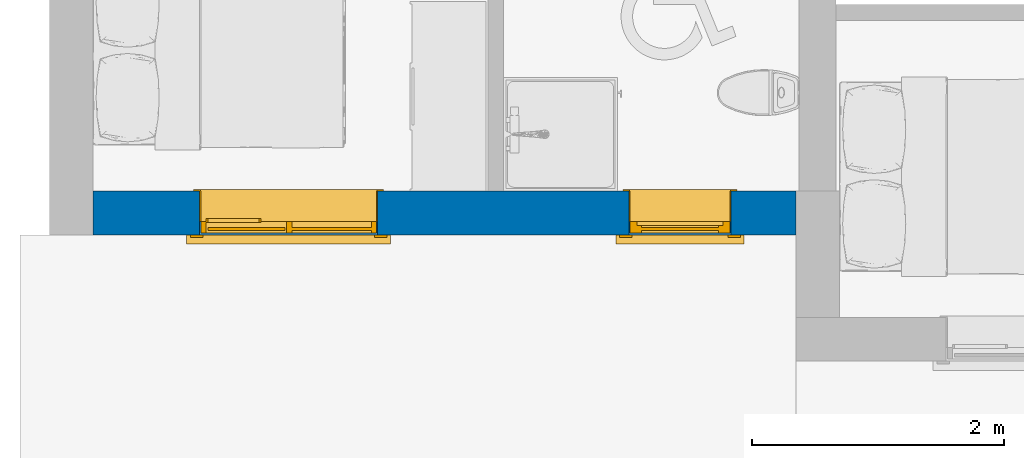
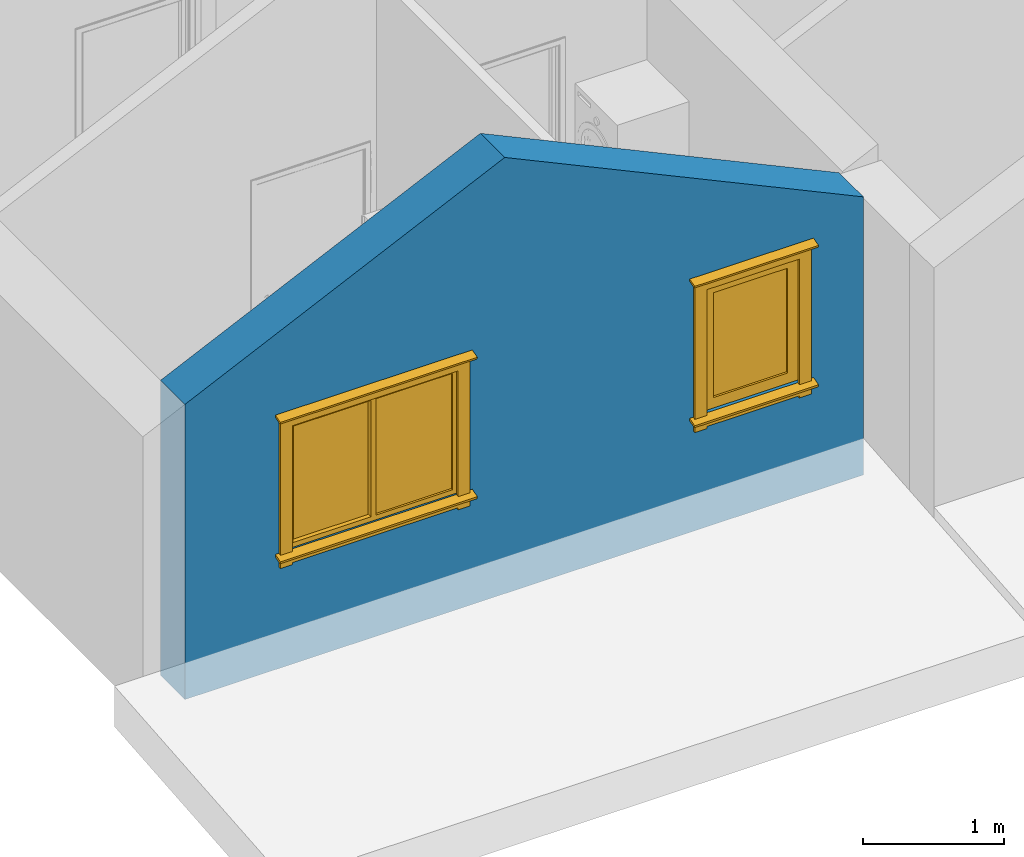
# One storey, part 2 of 44: 2 windows, 1 wall, 2 openings.
"""IFC2X3 building model written with IfcOpenShell, lengths in millimetres."""

from ifc_helpers import new_model, entity, si_unit, converted_unit, direction, frame, frame_2d, origin, place, context, subcontext, project, spatial, polyline, rectangle, extrude, clip, bounded_halfspace, faceted_brep, source, transform, mapped, material, material_list, layer, layer_set, layer_usage, type_object, type_shapes, element, fill, save


model = new_model("IFC2X3")

# Units and contexts
model_context = context("Model", 3, precision=0.01, world=origin(), true_north=direction((0.0, 1.0)))
body_context = subcontext(model_context, "Body", "Model", "MODEL_VIEW")
ifc_project = project(units=[si_unit("LENGTHUNIT", "METRE", prefix="MILLI"), si_unit("AREAUNIT", "SQUARE_METRE"), si_unit("VOLUMEUNIT", "CUBIC_METRE"), converted_unit("PLANEANGLEUNIT", "DEGREE", entity("IfcPlaneAngleMeasure", 0.017453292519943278), si_unit("PLANEANGLEUNIT", "RADIAN"), dimensions=[0, 0, 0, 0, 0, 0, 0])], contexts=[model_context])

# Site, building, storey
site_placement = place(None, origin())
site = spatial("IfcSite", under=ifc_project, at=site_placement, Name="Default", CompositionType="ELEMENT")
building_placement = place(site_placement, origin())
building = spatial("IfcBuilding", under=site, at=building_placement, CompositionType="ELEMENT")
storey_placement = place(building_placement, frame((0.0, 0.0, 2681.0)))
storey = spatial("IfcBuildingStorey", under=building, at=storey_placement, Name="Et. 2", CompositionType="ELEMENT", Elevation=2681.0)

# Wall, openings, windows
ifc_material_1 = material(Name="Vegg - Stående Kledning_smal - HVIT")
ifc_layer_1 = layer(ifc_material_1, 19.0)
ifc_material_2 = material(Name="Vegg - Utlekting")
ifc_layer_2 = layer(ifc_material_2, 36.0)
ifc_layer_3 = layer(ifc_material_2, 23.0)
ifc_material_3 = material(Name="Vegg - Gips - GU")
ifc_layer_4 = layer(ifc_material_3, 9.0)
ifc_material_4 = material(Name="Vegg - Stender - Isolert")
ifc_layer_5 = layer(ifc_material_4, 198.0)
ifc_material_5 = material(Name="Vegg - Påforing - Isolert")
ifc_layer_6 = layer(ifc_material_5, 48.0)
ifc_material_6 = material(Name="Vegg - Gips - Hvit")
ifc_layer_7 = layer(ifc_material_6, 13.000000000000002)
ifc_layer_set = layer_set([ifc_layer_1, ifc_layer_2, ifc_layer_3, ifc_layer_4, ifc_layer_5, ifc_layer_6, ifc_layer_7], Name="Basic Wall:23-Kv(sm)TIG-19_36_23_9_198_48_13")
ifc_layer_usage = layer_usage(ifc_layer_set, "AXIS2", "NEGATIVE", 173.0)
wall_type = type_object("IfcWallType", Name="Basic Wall:23-Kv(sm)TIG-19_36_23_9_198_48_13", PredefinedType="STANDARD", material=ifc_layer_set)
wall_placement = place(storey_placement, frame((16005.0095867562, 11581.180957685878, 0.0), z_axis=(0.0, 0.0, 1.0), x_axis=(-1.0, 0.0, 0.0)))
wall = element("IfcWallStandardCase", 1, at=wall_placement, inside=storey, type_object=wall_type, material=ifc_layer_usage, Name="Basic Wall:23-Kv(sm)TIG-19_36_23_9_198_48_13", context=body_context, shape_type="Clipping", body=[
    clip(clip(extrude(rectangle(XDim=5568.0, YDim=346.0000000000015, at=frame_2d((2784.0, 1.0089706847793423e-12), x_axis=(-1.0, 0.0))), origin(), (0.0, 0.0, 1.0), 3785.1668985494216), bounded_halfspace(frame((2943.5000000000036, -173.0, 3785.1668985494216), z_axis=(0.42261826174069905, 0.0, 0.9063077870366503), x_axis=(0.0, 1.0, 0.0)), False, frame((2943.5000000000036, -173.0, 3785.1668985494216)), polyline([(0.0, 0.0), (2624.499999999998, 0.0), (2624.499999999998, 346.0), (0.0, 346.0), (0.0, 0.0)]))), bounded_halfspace(frame((0.0, -173.0, 2412.5903067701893), z_axis=(-0.42261826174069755, 0.0, 0.9063077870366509), x_axis=(0.0, -1.0, 0.0)), False, frame((0.0, -173.0, 2412.5903067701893)), polyline([(0.0, 0.0), (2314.0, 0.0), (2440.0, 0.0), (2943.500000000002, 0.0), (2943.4999999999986, 346.0), (0.0, 346.0), (0.0, 0.0)]))),
])
opening_1_placement = place(wall_placement, frame((3313.0, -173.0, 990.0)))
opening_1 = element("IfcOpeningElement", 2, at=opening_1_placement, cuts=wall, Name="2 ruter vert-post åpning-fast m omramming:14x11M:1", ObjectType="Opening", context=body_context, shape_type="SweptSolid", body=[
    extrude(rectangle(XDim=1410.0000000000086, YDim=1109.9999999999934, at=frame_2d((554.9999999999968, 705.0000000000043), x_axis=(0.0, -1.0))), frame((0.0, 0.0, 0.0), z_axis=(0.0, 1.0, 0.0), x_axis=(0.0, 0.0, 1.0)), (0.0, 0.0, 1.0), 346.0),
])
opening_2_placement = place(wall_placement, frame((513.0, -173.0, 990.0)))
opening_2 = element("IfcOpeningElement", 3, at=opening_2_placement, cuts=wall, Name="Hel Rute Åpningsvindu m omramming:8x11M:1", ObjectType="Opening", context=body_context, shape_type="SweptSolid", body=[
    extrude(rectangle(XDim=809.9999999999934, YDim=1109.9999999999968, at=frame_2d((554.9999999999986, 404.9999999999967), x_axis=(0.0, -1.0))), frame((0.0, 0.0, 0.0), z_axis=(0.0, 1.0, 0.0), x_axis=(0.0, 0.0, 1.0)), (0.0, 0.0, 1.0), 346.0),
])
ifc_material_7 = material(Name="Omramming")
ifc_material_8 = material(Name="Glass - Klart")
ifc_material_9 = material(Name="Karm")
ifc_material_list_1 = material_list([ifc_material_7, ifc_material_8, ifc_material_9])
window_style_1 = type_object("IfcWindowStyle", Name="2 ruter vert-post åpning-fast m omramming:14x11M", ConstructionType="NOTDEFINED", OperationType="NOTDEFINED", ParameterTakesPrecedence=False, Sizeable=False, material=ifc_material_list_1)
shared_shape_1 = source(origin(), body_context, "Body", "Brep", [
    faceted_brep([(-73.0, 368.0, 1199.153701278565), (25.0, 368.0, 1199.153701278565), (25.0, 368.0, 4.105117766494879), (-73.0, 368.0, 4.105117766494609), (1385.0, 346.0, -110.0), (1483.0, 346.0, -110.0), (1483.0, 346.0, -12.776075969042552), (1513.0, 346.0, -12.776075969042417), (1513.0, 346.0, 10.0), (1483.0, 346.0, 10.0), (1483.0, 346.0, 1199.153701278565), (1385.0, 346.0, 1199.153701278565), (1385.0, 346.0, 10.0), (25.0, 346.0, 10.0), (25.0, 346.0, 1199.153701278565), (-73.0, 346.0, 1199.153701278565), (-73.0, 346.0, 10.0), (-103.0, 346.0, 10.0), (-103.0, 346.0, -12.776075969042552), (-73.0, 346.0, -12.776075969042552), (-73.0, 346.0, -110.0), (25.0, 346.0, -110.0), (25.0, 346.0, -12.776075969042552), (1385.0, 346.0, -12.776075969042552), (1483.0, 368.0, 1199.153701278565), (1385.0, 368.0, 1199.153701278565), (1483.0, 368.0, 4.105117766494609), (1385.0, 368.0, -110.0), (1483.0, 368.0, -110.0), (1385.0, 368.0, 4.105117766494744), (-73.0, 368.0, -110.0), (25.0, 368.0, -110.0), (-103.0, 413.6148078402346, -30.89340912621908), (-103.0, 419.3088268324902, -9.643040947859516), (1513.0, 413.6148078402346, -30.89340912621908), (1513.0, 419.3088268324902, -9.643040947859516), (1483.0, 368.0, -18.670958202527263), (1385.0, 368.0, -18.670958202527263), (25.0, 368.0, -18.670958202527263), (-73.0, 368.0, -18.670958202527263)], [[[0, 1, 2, 3]], [[4, 5, 6, 7, 8, 9, 10, 11, 12, 13, 14, 15, 16, 17, 18, 19, 20, 21, 22, 23]], [[24, 25, 11, 10]], [[24, 10, 9, 26]], [[27, 28, 5, 4]], [[11, 25, 29, 12]], [[1, 0, 15, 14]], [[1, 14, 13, 2]], [[30, 31, 21, 20]], [[15, 0, 3, 16]], [[32, 18, 17, 33]], [[34, 35, 8, 7]], [[18, 32, 34, 7, 6, 36, 37, 23, 22, 38, 39, 19]], [[33, 17, 16, 3, 2, 13, 12, 29, 26, 9, 8, 35]], [[32, 33, 35, 34]], [[30, 20, 19, 39]], [[21, 31, 38, 22]], [[27, 4, 23, 37]], [[5, 28, 36, 6]], [[31, 30, 39, 38]], [[25, 24, 26, 29]], [[28, 27, 37, 36]]]),
    faceted_brep([(1513.0, 413.52687511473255, 1180.8011105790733), (1513.0, 418.4444369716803, 1199.153701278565), (1513.0, 346.0, 1218.5651296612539), (1513.0, 346.0, 1198.894882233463), (-103.0, 413.52687511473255, 1180.8011105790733), (-103.0, 346.0, 1198.894882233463), (-103.0, 346.0, 1218.5651296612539), (-103.0, 418.4444369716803, 1199.153701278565)], [[[0, 1, 2, 3]], [[4, 5, 6, 7]], [[1, 0, 4, 7]], [[2, 1, 7, 6]], [[3, 2, 6, 5]], [[0, 3, 5, 4]]]),
    faceted_brep([(25.0, 368.0, 1193.0), (1385.0, 368.0, 1193.0), (1385.0, 368.0, 1095.0), (25.0, 368.0, 1095.0), (25.0, 346.0, 1193.0), (25.0, 346.0, 1095.0), (1385.0, 346.0, 1095.0), (1385.0, 346.0, 1193.0)], [[[0, 1, 2, 3]], [[4, 5, 6, 7]], [[1, 0, 4, 7]], [[2, 1, 7, 6]], [[3, 2, 6, 5]], [[0, 3, 5, 4]]]),
    faceted_brep([(1385.0, 368.0, -20.0), (25.0, 368.0, -20.0), (25.0, 346.0, -20.0), (1385.0, 346.0, -20.0), (1385.0, 368.0, -92.0), (1385.0, 346.0, -92.0), (25.0, 368.0, -92.0), (25.0, 346.0, -92.0)], [[[0, 1, 2, 3]], [[4, 0, 3, 5]], [[6, 4, 5, 7]], [[1, 6, 7, 2]], [[2, 7, 5, 3]], [[1, 0, 4, 6]]]),
    faceted_brep([(1345.0, 288.49999999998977, 65.0), (1345.0, 288.4999999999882, 1045.0), (735.0, 288.4999999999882, 1045.0), (735.0, 288.49999999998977, 65.0), (1345.0, 313.49999999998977, 65.0), (735.0, 313.49999999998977, 65.0), (735.0, 313.4999999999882, 1045.0), (1345.0, 313.4999999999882, 1045.0)], [[[0, 1, 2, 3]], [[4, 5, 6, 7]], [[1, 0, 4, 7]], [[2, 1, 7, 6]], [[3, 2, 6, 5]], [[0, 3, 5, 4]]]),
    faceted_brep([(720.0, 331.0, 50.0), (720.0, 331.0, 1060.0), (720.0, 239.0, 1060.0), (720.0, 239.0, 50.0), (1400.0, 239.0, 10.0), (1400.0, 239.0, 1100.0), (10.0, 239.0, 1100.0), (10.0, 239.0, 10.0), (680.0, 239.0, 1060.0), (680.0, 239.0, 50.0), (50.0, 239.0, 50.0), (50.0, 239.0, 1060.0), (925.0, 239.0, 1060.0), (1360.0, 239.0, 1060.0), (1360.0, 239.0, 50.0), (925.0, 239.0, 50.0), (680.0, 331.0, 1060.0), (680.0, 331.0, 50.0), (1360.0, 331.0, 50.0), (1360.0, 331.0, 1060.0), (50.0, 331.0, 1060.0), (50.0, 331.0, 50.0), (1400.0, 331.0, 1100.0), (1400.0, 331.0, 10.0), (10.0, 331.0, 10.0), (10.0, 331.0, 1100.0), (1360.0, 248.0, 50.0), (1360.0, 248.0, 1060.0), (925.0, 248.0, 1060.0), (940.0, 216.0, 65.0), (940.0, 248.0, 65.0), (940.0, 248.0, 1045.0), (940.0, 216.0, 1045.0), (1345.0, 248.0, 1045.0), (1345.0, 216.0, 1045.0), (1345.0, 248.0, 65.0), (1345.0, 216.0, 65.0), (925.0, 248.0, 50.0), (925.0, 216.0, 50.0), (925.0, 216.0, 1060.0), (1360.0, 216.0, 1060.0), (1360.0, 216.0, 50.0)], [[[0, 1, 2, 3]], [[4, 5, 6, 7], [8, 9, 10, 11], [3, 2, 12, 13, 14, 15]], [[9, 8, 16, 17]], [[1, 0, 18, 19], [17, 16, 20, 21], [22, 23, 24, 25]], [[4, 23, 22, 5]], [[19, 18, 26, 27]], [[5, 22, 25, 6]], [[1, 19, 27, 28, 12, 2]], [[6, 25, 24, 7]], [[20, 11, 10, 21]], [[23, 4, 7, 24]], [[21, 10, 9, 17]], [[29, 30, 31, 32]], [[32, 31, 33, 34]], [[34, 33, 35, 36]], [[30, 29, 36, 35]], [[31, 30, 35, 33], [37, 28, 27, 26]], [[38, 39, 12, 28, 37, 15]], [[39, 40, 13, 12]], [[40, 41, 14, 13]], [[29, 32, 34, 36], [39, 38, 41, 40]], [[41, 38, 15, 14]], [[18, 0, 3, 15, 37, 26]], [[11, 20, 16, 8]]], outer=[[True], [True, False, False], [True], [False, False, True], [True], [True], [True], [True], [True], [True], [True], [True], [True], [True], [True], [True], [False, True], [True], [True], [True], [False, True], [True], [True], [True]]),
    faceted_brep([(680.0, 288.49999999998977, 50.0), (680.0, 288.4999999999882, 1060.0), (50.0, 288.4999999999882, 1060.0), (50.0, 288.49999999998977, 50.0), (680.0, 313.49999999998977, 50.0), (50.0, 313.49999999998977, 50.0), (50.0, 313.4999999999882, 1060.0), (680.0, 313.4999999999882, 1060.0)], [[[0, 1, 2, 3]], [[4, 5, 6, 7]], [[1, 0, 4, 7]], [[2, 1, 7, 6]], [[3, 2, 6, 5]], [[0, 3, 5, 4]]]),
    faceted_brep([(1410.0, 239.0, 1110.0), (1410.0, 239.0, 0.0), (0.0, 239.0, 0.0), (0.0, 239.0, 1110.0), (10.0, 239.0, 10.0), (1400.0, 239.0, 10.0), (1400.0, 239.0, 1100.0), (10.0, 239.0, 1100.0), (1410.0, 0.0, 1110.0), (0.0, 0.0, 1110.0), (0.0, 0.0, 0.0), (1410.0, 0.0, 0.0), (10.0, 0.0, 10.0), (10.0, 0.0, 1100.0), (1400.0, 0.0, 1100.0), (1400.0, 0.0, 10.0)], [[[0, 1, 2, 3], [4, 5, 6, 7]], [[8, 9, 10, 11], [12, 13, 14, 15]], [[1, 0, 8, 11]], [[2, 1, 11, 10]], [[3, 2, 10, 9]], [[0, 3, 9, 8]], [[5, 4, 12, 15]], [[6, 5, 15, 14]], [[7, 6, 14, 13]], [[4, 7, 13, 12]]]),
    faceted_brep([(1405.0, -12.0, 1105.0), (1405.0, 0.0, 1105.0), (1405.0, 0.0, 5.0), (1405.0, -12.0, 5.0), (1457.0, 0.0, 1157.0), (1457.0, -12.0, 1157.0), (1457.0, -12.0, -47.0), (1457.0, 0.0, -47.0), (5.0, 0.0, 5.0), (5.0, -12.0, 5.0), (-47.0, -12.0, -47.0), (-47.0, 0.0, -47.0), (5.0, 0.0, 1105.0), (5.0, -12.0, 1105.0), (-47.0, -12.0, 1157.0), (-47.0, 0.0, 1157.0)], [[[0, 1, 2, 3]], [[4, 5, 6, 7]], [[3, 2, 8, 9]], [[7, 6, 10, 11]], [[9, 8, 12, 13]], [[11, 10, 14, 15]], [[7, 11, 15, 4], [1, 12, 8, 2]], [[13, 12, 1, 0]], [[3, 9, 13, 0], [5, 14, 10, 6]], [[15, 14, 5, 4]]], outer=[[True], [True], [True], [True], [True], [True], [True, False], [True], [False, True], [True]]),
])
type_shapes(window_style_1, [shared_shape_1])
window_1_placement = place(opening_1_placement, origin())
window_1 = element("IfcWindow", 4, at=window_1_placement, inside=storey, type_object=window_style_1, material=ifc_material_list_1, Name="2 ruter vert-post åpning-fast m omramming:14x11M", OverallHeight=1109.9999999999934, OverallWidth=1410.0000000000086, context=body_context, shape_type="MappedRepresentation", body=[
    mapped(shared_shape_1, transform((0.0, 0.0, 0.0), scale=1.0)),
])
fill(opening_1, window_1)
ifc_material_list_2 = material_list([ifc_material_7, ifc_material_9, ifc_material_8])
window_style_2 = type_object("IfcWindowStyle", Name="Hel Rute Åpningsvindu m omramming:8x11M", ConstructionType="NOTDEFINED", OperationType="NOTDEFINED", ParameterTakesPrecedence=False, Sizeable=False, material=ifc_material_list_2)
shared_shape_2 = source(origin(), body_context, "Body", "Brep", [
    faceted_brep([(-73.0, 368.0, 1189.1537012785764), (25.0, 368.0, 1189.1537012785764), (25.0, 368.0, -5.894882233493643), (-73.0, 368.0, -5.894882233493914), (785.0, 346.0, -120.0), (883.0, 346.0, -120.0), (883.0, 346.0, -22.776075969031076), (913.0, 346.0, -22.77607596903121), (913.0, 346.0, 0.0), (883.0, 346.0, 0.0), (883.0, 346.0, 1189.1537012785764), (785.0, 346.0, 1189.1537012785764), (785.0, 346.0, 0.0), (25.0, 346.0, 0.0), (25.0, 346.0, 1189.1537012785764), (-73.0, 346.0, 1189.1537012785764), (-73.0, 346.0, 0.0), (-103.0, 346.0, 0.0), (-103.0, 346.0, -22.776075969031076), (-73.0, 346.0, -22.776075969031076), (-73.0, 346.0, -120.0), (25.0, 346.0, -120.0), (25.0, 346.0, -22.776075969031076), (785.0, 346.0, -22.776075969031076), (883.0, 368.0, 1189.1537012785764), (785.0, 368.0, 1189.1537012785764), (883.0, 368.0, -5.894882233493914), (785.0, 368.0, -120.0), (883.0, 368.0, -120.0), (785.0, 368.0, -5.894882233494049), (-73.0, 368.0, -120.0), (25.0, 368.0, -120.0), (-103.0, 413.6148078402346, -40.89340912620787), (-103.0, 419.3088268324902, -19.64304094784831), (913.0, 413.6148078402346, -40.89340912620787), (913.0, 419.3088268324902, -19.64304094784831), (883.0, 368.0, -28.67095820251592), (785.0, 368.0, -28.670958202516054), (25.0, 368.0, -28.67095820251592), (-73.0, 368.0, -28.670958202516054)], [[[0, 1, 2, 3]], [[4, 5, 6, 7, 8, 9, 10, 11, 12, 13, 14, 15, 16, 17, 18, 19, 20, 21, 22, 23]], [[24, 25, 11, 10]], [[24, 10, 9, 26]], [[27, 28, 5, 4]], [[11, 25, 29, 12]], [[1, 0, 15, 14]], [[1, 14, 13, 2]], [[30, 31, 21, 20]], [[15, 0, 3, 16]], [[32, 18, 17, 33]], [[34, 35, 8, 7]], [[18, 32, 34, 7, 6, 36, 37, 23, 22, 38, 39, 19]], [[33, 17, 16, 3, 2, 13, 12, 29, 26, 9, 8, 35]], [[32, 33, 35, 34]], [[30, 20, 19, 39]], [[21, 31, 38, 22]], [[27, 4, 23, 37]], [[5, 28, 36, 6]], [[31, 30, 39, 38]], [[25, 24, 26, 29]], [[28, 27, 37, 36]]]),
    faceted_brep([(913.0, 413.52687511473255, 1170.8011105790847), (913.0, 418.4444369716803, 1189.1537012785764), (913.0, 346.0, 1208.5651296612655), (913.0, 346.0, 1188.8948822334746), (-103.0, 413.52687511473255, 1170.8011105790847), (-103.0, 346.0, 1188.8948822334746), (-103.0, 346.0, 1208.5651296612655), (-103.0, 418.4444369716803, 1189.1537012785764)], [[[0, 1, 2, 3]], [[4, 5, 6, 7]], [[1, 0, 4, 7]], [[2, 1, 7, 6]], [[3, 2, 6, 5]], [[0, 3, 5, 4]]]),
    faceted_brep([(25.0, 368.0, 1183.0), (785.0, 368.0, 1183.0), (785.0, 368.0, 1085.0), (25.0, 368.0, 1085.0), (25.0, 346.0, 1183.0), (25.0, 346.0, 1085.0), (785.0, 346.0, 1085.0), (785.0, 346.0, 1183.0)], [[[0, 1, 2, 3]], [[4, 5, 6, 7]], [[1, 0, 4, 7]], [[2, 1, 7, 6]], [[3, 2, 6, 5]], [[0, 3, 5, 4]]]),
    faceted_brep([(785.0, 368.0, -30.0), (25.0, 368.0, -30.0), (25.0, 346.0, -30.0), (785.0, 346.0, -30.0), (785.0, 368.0, -102.0), (785.0, 346.0, -102.0), (25.0, 368.0, -102.0), (25.0, 346.0, -102.0)], [[[0, 1, 2, 3]], [[4, 0, 3, 5]], [[6, 4, 5, 7]], [[1, 6, 7, 2]], [[2, 7, 5, 3]], [[1, 0, 4, 6]]]),
    faceted_brep([(100.0, 271.0, 100.0), (100.0, 331.0, 100.0), (100.0, 331.0, 1010.0), (100.0, 271.0, 1010.0), (50.0, 331.0, 50.0), (50.0, 271.0, 50.0), (50.0, 271.0, 1060.0), (50.0, 331.0, 1060.0), (710.0, 331.0, 1010.0), (710.0, 271.0, 1010.0), (760.0, 271.0, 1060.0), (760.0, 331.0, 1060.0), (710.0, 331.0, 100.0), (710.0, 271.0, 100.0), (760.0, 271.0, 50.0), (760.0, 331.0, 50.0)], [[[0, 1, 2, 3]], [[4, 5, 6, 7]], [[3, 2, 8, 9]], [[7, 6, 10, 11]], [[9, 8, 12, 13]], [[11, 10, 14, 15]], [[13, 12, 1, 0]], [[3, 9, 13, 0], [5, 14, 10, 6]], [[15, 14, 5, 4]], [[7, 11, 15, 4], [1, 12, 8, 2]]], outer=[[True], [True], [True], [True], [True], [True], [True], [False, True], [True], [True, False]]),
    faceted_brep([(710.0, 288.4999999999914, 100.0), (710.0, 288.49999999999, 1010.0), (100.0, 288.49999999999, 1010.0), (100.0, 288.4999999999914, 100.0), (710.0, 313.4999999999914, 100.0), (100.0, 313.4999999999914, 100.0), (100.0, 313.49999999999, 1010.0), (710.0, 313.49999999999, 1010.0)], [[[0, 1, 2, 3]], [[4, 5, 6, 7]], [[1, 0, 4, 7]], [[2, 1, 7, 6]], [[3, 2, 6, 5]], [[0, 3, 5, 4]]]),
    faceted_brep([(800.0, 239.0, 10.0), (800.0, 331.0, 10.0), (800.0, 331.0, 1100.0), (800.0, 239.0, 1100.0), (760.0, 331.0, 1060.0), (760.0, 331.0, 50.0), (760.0, 271.0, 50.0), (760.0, 271.0, 1060.0), (10.0, 331.0, 1100.0), (10.0, 239.0, 1100.0), (50.0, 331.0, 1060.0), (50.0, 271.0, 1060.0), (10.0, 331.0, 10.0), (10.0, 239.0, 10.0), (50.0, 331.0, 50.0), (50.0, 271.0, 50.0), (65.0, 239.0, 65.0), (65.0, 239.0, 1045.0), (745.0, 239.0, 1045.0), (745.0, 239.0, 65.0), (65.0, 271.0, 65.0), (65.0, 271.0, 1045.0), (745.0, 271.0, 1045.0), (745.0, 271.0, 65.0)], [[[0, 1, 2, 3]], [[4, 5, 6, 7]], [[3, 2, 8, 9]], [[10, 4, 7, 11]], [[9, 8, 12, 13]], [[14, 10, 11, 15]], [[2, 1, 12, 8], [5, 4, 10, 14]], [[1, 0, 13, 12]], [[0, 3, 9, 13], [16, 17, 18, 19]], [[5, 14, 15, 6]], [[16, 20, 21, 17]], [[17, 21, 22, 18]], [[18, 22, 23, 19]], [[20, 16, 19, 23]], [[7, 6, 15, 11], [21, 20, 23, 22]]]),
    faceted_brep([(810.0, 239.0, 1110.0), (810.0, 239.0, 0.0), (0.0, 239.0, 0.0), (0.0, 239.0, 1110.0), (10.0, 239.0, 10.0), (800.0, 239.0, 10.0), (800.0, 239.0, 1100.0), (10.0, 239.0, 1100.0), (810.0, 0.0, 1110.0), (0.0, 0.0, 1110.0), (0.0, 0.0, 0.0), (810.0, 0.0, 0.0), (10.0, 0.0, 10.0), (10.0, 0.0, 1100.0), (800.0, 0.0, 1100.0), (800.0, 0.0, 10.0)], [[[0, 1, 2, 3], [4, 5, 6, 7]], [[8, 9, 10, 11], [12, 13, 14, 15]], [[1, 0, 8, 11]], [[2, 1, 11, 10]], [[3, 2, 10, 9]], [[0, 3, 9, 8]], [[5, 4, 12, 15]], [[6, 5, 15, 14]], [[7, 6, 14, 13]], [[4, 7, 13, 12]]]),
    faceted_brep([(5.0, -12.0, 1105.0), (5.0, 0.0, 1105.0), (805.0, 0.0, 1105.0), (805.0, -12.0, 1105.0), (-47.0, 0.0, 1157.0), (-47.0, -12.0, 1157.0), (857.0, -12.0, 1157.0), (857.0, 0.0, 1157.0), (805.0, 0.0, 5.0), (805.0, -12.0, 5.0), (857.0, -12.0, -47.0), (857.0, 0.0, -47.0), (5.0, 0.0, 5.0), (5.0, -12.0, 5.0), (-47.0, -12.0, -47.0), (-47.0, 0.0, -47.0)], [[[0, 1, 2, 3]], [[4, 5, 6, 7]], [[3, 2, 8, 9]], [[7, 6, 10, 11]], [[9, 8, 12, 13]], [[11, 10, 14, 15]], [[7, 11, 15, 4], [1, 12, 8, 2]], [[13, 12, 1, 0]], [[3, 9, 13, 0], [5, 14, 10, 6]], [[15, 14, 5, 4]]], outer=[[True], [True], [True], [True], [True], [True], [True, False], [True], [False, True], [True]]),
])
type_shapes(window_style_2, [shared_shape_2])
window_2_placement = place(opening_2_placement, origin())
window_2 = element("IfcWindow", 5, at=window_2_placement, inside=storey, type_object=window_style_2, material=ifc_material_list_2, Name="Hel Rute Åpningsvindu m omramming:8x11M", OverallHeight=1109.9999999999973, OverallWidth=809.9999999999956, context=body_context, shape_type="MappedRepresentation", body=[
    mapped(shared_shape_2, transform((0.0, 0.0, 0.0), scale=1.0)),
])
fill(opening_2, window_2)

save(model, "model.ifc")
